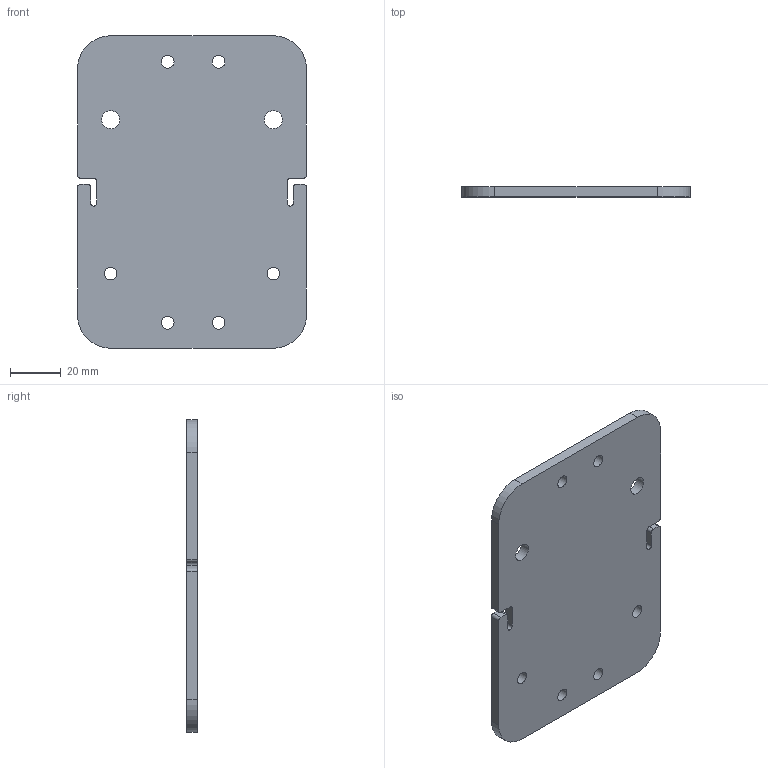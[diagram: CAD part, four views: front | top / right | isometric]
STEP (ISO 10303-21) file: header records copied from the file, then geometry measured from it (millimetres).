
FILE_DESCRIPTION(/* description */ (''),/* implementation_level */ '2;1');
FILE_NAME(/* name */ 'Y-axis-base-final.step',/* time_stamp */ '2025-06-23T21:23:08-04:00',/* author */ (''),/* organization */ (''),/* preprocessor_version */ 'ST-DEVELOPER v20.1',/* originating_system */ 'Autodesk Translation Framework v14.10.0.0',/* authorisation */ '');
FILE_SCHEMA (('AUTOMOTIVE_DESIGN { 1 0 10303 214 3 1 1 }'));
Length unit declared in the file: millimetre
Products named in the file (1): New-Base
Bounding box: 90 x 4 x 122.85 mm (x, y, z)
Volume: 42548 mm3; surface area: 23676.3 mm2
Topology: 1 solids, 1 shells, 38 faces, 108 edges, 72 vertices
Faces by surface type: cylinder 22, plane 16
Full cylindrical faces by diameter (mm): 5 x6, 7.1 x2
Entity records: 1328 total; most frequent: DIRECTION 230, CARTESIAN_POINT 219, ORIENTED_EDGE 216, EDGE_CURVE 108, AXIS2_PLACEMENT_3D 83, VERTEX_POINT 72, LINE 64, VECTOR 64
